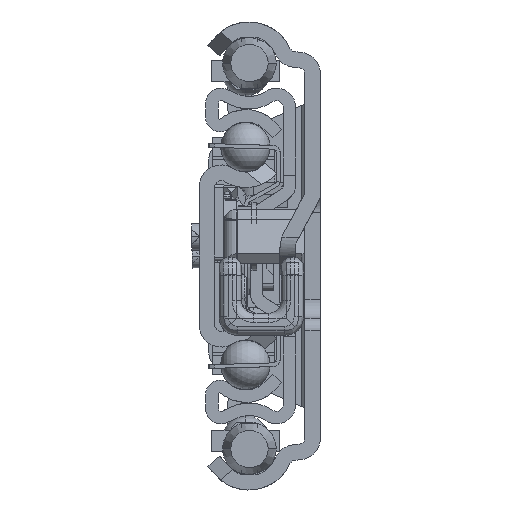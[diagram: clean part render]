
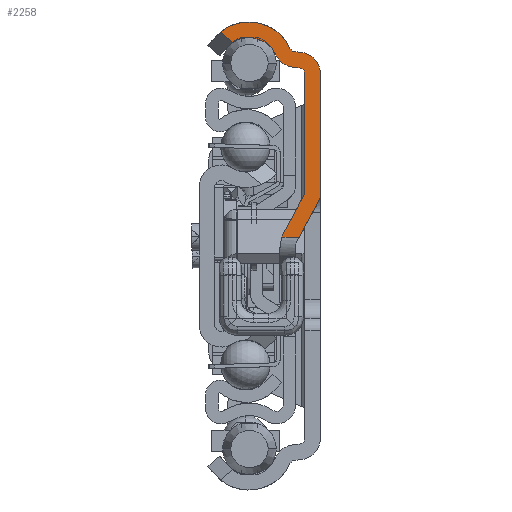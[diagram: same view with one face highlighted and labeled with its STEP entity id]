
A CAD part, left-side view. The second image highlights one B-rep face of the part: STEP entity #2258.
In plain terms, the highlighted planar face has unit normal (-1, 0, 0).
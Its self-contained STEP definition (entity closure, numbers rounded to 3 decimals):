
#1=DIRECTION('',(0.,-0.769,-0.639));
#2=VECTOR('',#1,2.575);
#3=CARTESIAN_POINT('',(0.,16.079,36.021));
#4=LINE('',#3,#2);
#5=CARTESIAN_POINT('',(0.,11.5,30.4));
#6=DIRECTION('',(1.,0.,0.));
#7=DIRECTION('',(0.,0.632,0.775));
#8=AXIS2_PLACEMENT_3D('',#5,#6,#7);
#10=DIRECTION('',(0.,-0.996,-0.087));
#11=VECTOR('',#10,0.904);
#12=CARTESIAN_POINT('',(0.,4.095,32.858));
#13=LINE('',#12,#11);
#14=CARTESIAN_POINT('',(0.,3.5,29.293));
#15=DIRECTION('',(-1.,0.,0.));
#16=DIRECTION('',(0.,-1.,0.));
#17=AXIS2_PLACEMENT_3D('',#14,#15,#16);
#19=CARTESIAN_POINT('',(0.,2.5,9.942));
#20=DIRECTION('',(1.,0.,0.));
#21=DIRECTION('',(0.,-1.,0.));
#22=AXIS2_PLACEMENT_3D('',#19,#20,#21);
#24=DIRECTION('',(0.,-1.,0.));
#25=VECTOR('',#24,2.78);
#26=CARTESIAN_POINT('',(0.,6.177,3.04));
#27=LINE('',#26,#25);
#28=CARTESIAN_POINT('',(0.,0.5,1.099));
#29=DIRECTION('',(-1.,0.,0.));
#30=DIRECTION('',(0.,0.879,0.477));
#31=AXIS2_PLACEMENT_3D('',#28,#29,#30);
#33=DIRECTION('',(0.,0.477,-0.879));
#34=VECTOR('',#33,6.873);
#35=CARTESIAN_POINT('',(0.,2.5,10.));
#36=LINE('',#35,#34);
#37=DIRECTION('',(0.,0.,1.));
#38=VECTOR('',#37,19.293);
#39=CARTESIAN_POINT('',(0.,2.5,10.));
#40=LINE('',#39,#38);
#41=DIRECTION('',(0.,0.996,0.087));
#42=VECTOR('',#41,0.904);
#43=CARTESIAN_POINT('',(0.,3.413,30.289));
#44=LINE('',#43,#42);
#45=CARTESIAN_POINT('',(0.,4.008,33.854));
#46=DIRECTION('',(-1.,0.,0.));
#47=DIRECTION('',(0.,0.908,-0.419));
#48=AXIS2_PLACEMENT_3D('',#45,#46,#47);
#50=CARTESIAN_POINT('',(0.,11.5,30.4));
#51=DIRECTION('',(-1.,0.,0.));
#52=DIRECTION('',(0.,-0.908,0.419));
#53=AXIS2_PLACEMENT_3D('',#50,#51,#52);
#99=CARTESIAN_POINT('',(0.,14.098,34.377));
#147=CARTESIAN_POINT('',(0.,3.5,29.293));
#148=DIRECTION('',(1.,0.,0.));
#149=DIRECTION('',(0.,-0.087,0.996));
#150=AXIS2_PLACEMENT_3D('',#147,#148,#149);
#636=DIRECTION('',(0.,0.,1.));
#637=VECTOR('',#636,19.351);
#638=CARTESIAN_POINT('',(0.,0.,9.942));
#639=LINE('',#638,#637);
#957=CARTESIAN_POINT('',(0.,16.079,
36.021));
#1394=CARTESIAN_POINT('',(0.,4.008,33.854));
#1395=DIRECTION('',(1.,0.,0.));
#1396=DIRECTION('',(0.,0.087,-0.996));
#1397=AXIS2_PLACEMENT_3D('',#1394,#1395,#1396);
#1491=CARTESIAN_POINT('',(0.,3.397,3.04));
#1496=DIRECTION('',(0.,-0.477,0.879));
#1497=VECTOR('',#1496,6.495);
#1498=CARTESIAN_POINT('',(0.,3.397,3.04));
#1499=LINE('',#1498,#1497);
#1734=CARTESIAN_POINT('',(0.,3.413,30.289));
#1735=CARTESIAN_POINT('',(0.,2.5,29.293));
#1736=VERTEX_POINT('',#1734);
#1737=VERTEX_POINT('',#1735);
#1738=CARTESIAN_POINT('',(0.,4.095,32.858));
#1739=CARTESIAN_POINT('',(0.,4.916,33.436));
#1740=VERTEX_POINT('',#1738);
#1741=VERTEX_POINT('',#1739);
#1750=CARTESIAN_POINT('',(0.,7.186,32.389));
#1751=CARTESIAN_POINT('',(0.,4.313,30.368));
#1752=VERTEX_POINT('',#1750);
#1753=VERTEX_POINT('',#1751);
#1754=CARTESIAN_POINT('',(0.,0.,29.293));
#1755=CARTESIAN_POINT('',(0.,3.195,32.78));
#1756=VERTEX_POINT('',#1754);
#1757=VERTEX_POINT('',#1755);
#1850=CARTESIAN_POINT('',(0.,2.5,10.));
#1851=VERTEX_POINT('',#1850);
#1910=CARTESIAN_POINT('',(0.,0.,9.942));
#1912=VERTEX_POINT('',#1910);
#1915=CARTESIAN_POINT('',(0.,0.302,8.751));
#1916=VERTEX_POINT('',#1915);
#1919=CARTESIAN_POINT('',(0.,5.775,3.958));
#1920=VERTEX_POINT('',#1919);
#1921=CARTESIAN_POINT('',(0.,6.177,3.04));
#1922=VERTEX_POINT('',#1921);
#1925=VERTEX_POINT('',#1491);
#2177=VERTEX_POINT('',#99);
#2185=VERTEX_POINT('',#957);
#2219=CARTESIAN_POINT('',(0.,0.,0.));
#2220=DIRECTION('',(1.,0.,0.));
#2221=DIRECTION('',(0.,-1.,0.));
#2222=AXIS2_PLACEMENT_3D('',#2219,#2220,#2221);
#2223=PLANE('',#2222);
#2225=ORIENTED_EDGE('',*,*,#2224,.F.);
#2227=ORIENTED_EDGE('',*,*,#2226,.T.);
#2229=ORIENTED_EDGE('',*,*,#2228,.F.);
#2231=ORIENTED_EDGE('',*,*,#2230,.T.);
#2233=ORIENTED_EDGE('',*,*,#2232,.F.);
#2235=ORIENTED_EDGE('',*,*,#2234,.F.);
#2237=ORIENTED_EDGE('',*,*,#2236,.T.);
#2239=ORIENTED_EDGE('',*,*,#2238,.F.);
#2241=ORIENTED_EDGE('',*,*,#2240,.F.);
#2243=ORIENTED_EDGE('',*,*,#2242,.F.);
#2245=ORIENTED_EDGE('',*,*,#2244,.F.);
#2247=ORIENTED_EDGE('',*,*,#2246,.T.);
#2249=ORIENTED_EDGE('',*,*,#2248,.F.);
#2251=ORIENTED_EDGE('',*,*,#2250,.T.);
#2253=ORIENTED_EDGE('',*,*,#2252,.F.);
#2255=ORIENTED_EDGE('',*,*,#2254,.T.);
#2256=EDGE_LOOP('',(#2225,#2227,#2229,#2231,#2233,#2235,#2237,#2239,#2241,#2243,
#2245,#2247,#2249,#2251,#2253,#2255));
#2257=FACE_OUTER_BOUND('',#2256,.F.);
#9=CIRCLE('',#8,7.25);
#18=CIRCLE('',#17,3.5);
#23=CIRCLE('',#22,2.5);
#32=CIRCLE('',#31,6.);
#49=CIRCLE('',#48,3.5);
#54=CIRCLE('',#53,4.75);
#151=CIRCLE('',#150,1.);
#1398=CIRCLE('',#1397,1.);
#2224=EDGE_CURVE('',#2185,#2177,#4,.T.);
#2226=EDGE_CURVE('',#2185,#1741,#9,.T.);
#2228=EDGE_CURVE('',#1740,#1741,#1398,.T.);
#2230=EDGE_CURVE('',#1740,#1757,#13,.T.);
#2232=EDGE_CURVE('',#1756,#1757,#18,.T.);
#2234=EDGE_CURVE('',#1912,#1756,#639,.T.);
#2236=EDGE_CURVE('',#1912,#1916,#23,.T.);
#2238=EDGE_CURVE('',#1925,#1916,#1499,.T.);
#2240=EDGE_CURVE('',#1922,#1925,#27,.T.);
#2242=EDGE_CURVE('',#1920,#1922,#32,.T.);
#2244=EDGE_CURVE('',#1851,#1920,#36,.T.);
#2246=EDGE_CURVE('',#1851,#1737,#40,.T.);
#2248=EDGE_CURVE('',#1736,#1737,#151,.T.);
#2250=EDGE_CURVE('',#1736,#1753,#44,.T.);
#2252=EDGE_CURVE('',#1752,#1753,#49,.T.);
#2254=EDGE_CURVE('',#1752,#2177,#54,.T.);
#2258=ADVANCED_FACE('',(#2257),#2223,.F.);
